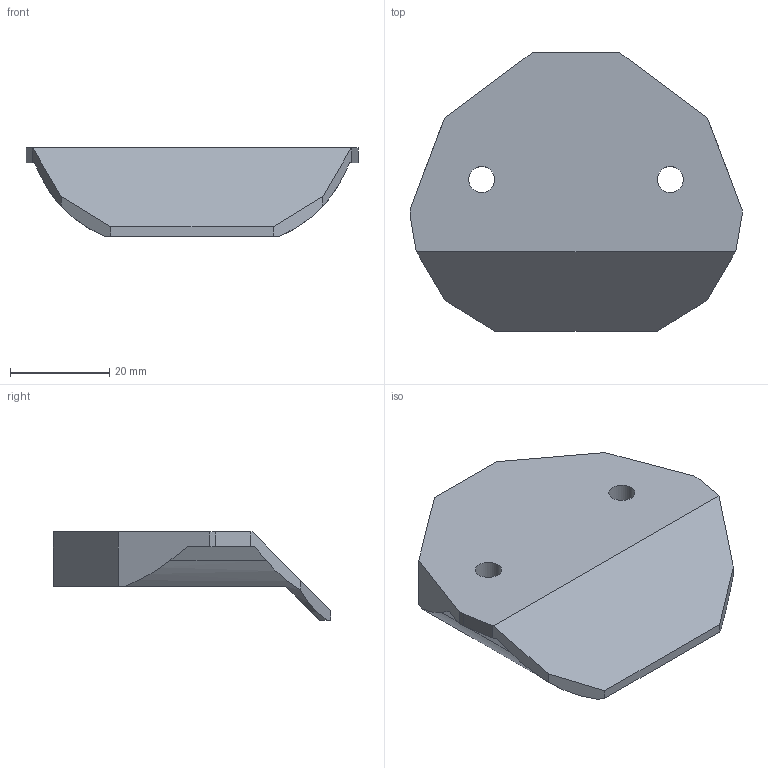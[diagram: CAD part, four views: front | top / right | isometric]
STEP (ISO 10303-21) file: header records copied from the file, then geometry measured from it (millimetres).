
FILE_DESCRIPTION( ( 'STEP AP214' ), '1' );
FILE_NAME( 'D:/Yug/2020/QC/Final Delta/Correction_By_Yug/Cabiner_Interior/9142067.stp', '2020-12-31T06:29:28', ( '' ), ( '' ), ' ', 'PARTsolutions', ' ' );
FILE_SCHEMA( ( 'AUTOMOTIVE_DESIGN { 1 0 10303 214 1 1 1 1 }' ) );
Length unit declared in the file: millimetre
Products named in the file (1): _9142067
Bounding box: 66.9 x 56 x 17.8 mm (x, y, z)
Volume: 26896.2 mm3; surface area: 8074.1 mm2
Topology: 1 solids, 1 shells, 27 faces, 77 edges, 52 vertices
Faces by surface type: plane 23, cylinder 4
Full cylindrical faces by diameter (mm): 5.25 x2
Entity records: 1091 total; most frequent: CARTESIAN_POINT 151, ORIENTED_EDGE 146, DIRECTION 141, EDGE_CURVE 73, LINE 61, VECTOR 61, VERTEX_POINT 50, AXIS2_PLACEMENT_3D 40
